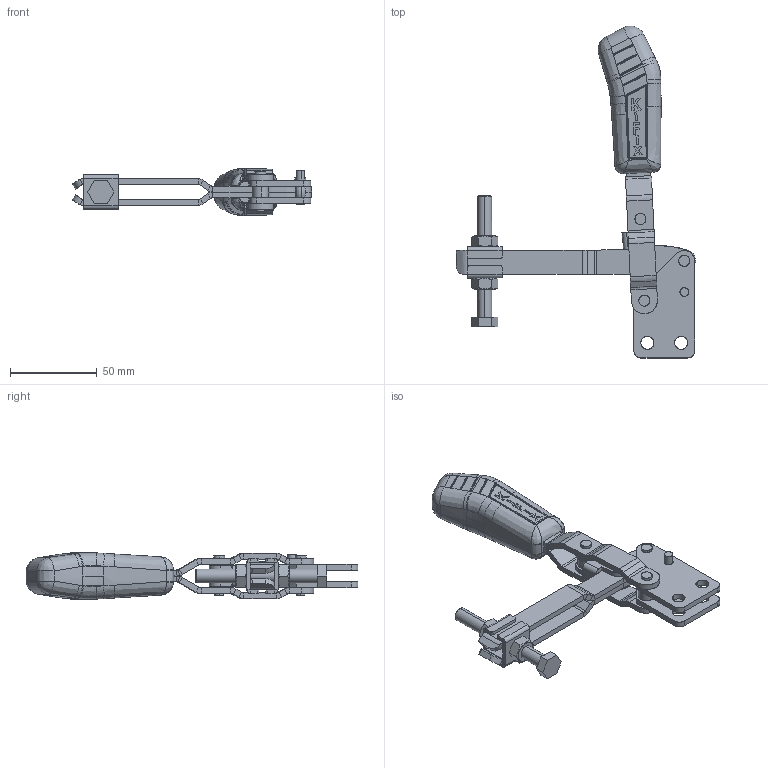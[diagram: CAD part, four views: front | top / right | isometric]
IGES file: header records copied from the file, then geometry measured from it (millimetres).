
Start section: SolidWorks IGES file using analytic representation for surfaces
Global section: file name: C:\Projetos\Grampos\KF-016\KF-016 RBL\KF-016 RBL.IGS; native system: SolidWorks 2013; preprocessor: SolidWorks 2013; author: Ricardo; date: 140728.132208; units: millimetre
Bounding box: 137.91 x 191.43 x 27.02 mm (x, y, z)
Surface area: 51162 mm2 (no closed solid volume)
Topology: 0 solids, 0 shells, 788 faces, 8273 edges, 8260 vertices
Faces by surface type: bspline 501, revolution 287
